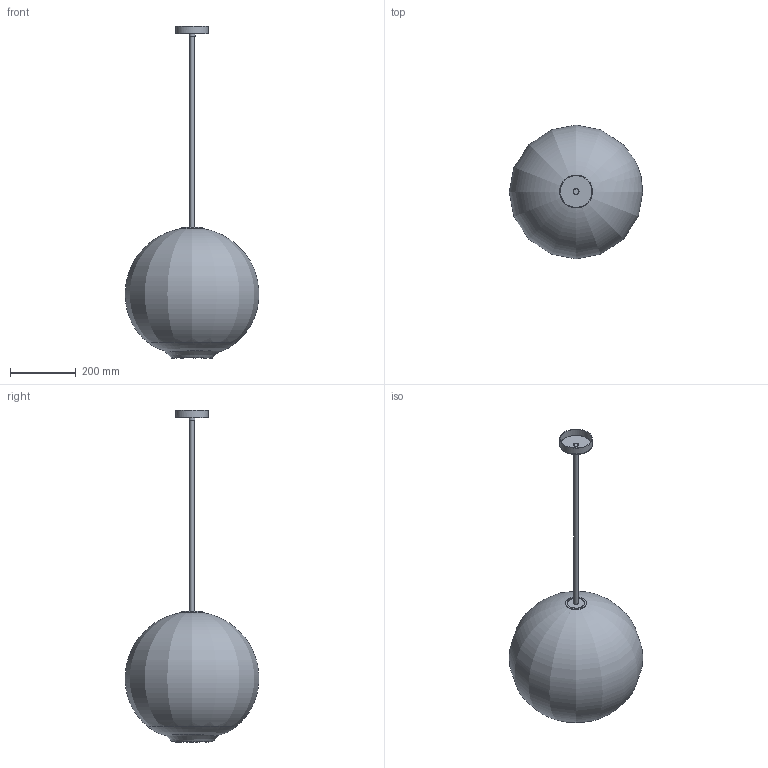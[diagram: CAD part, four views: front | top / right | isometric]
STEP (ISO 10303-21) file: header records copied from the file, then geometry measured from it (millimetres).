
FILE_DESCRIPTION(/* description */ (''),/* implementation_level */ '2;1');
FILE_NAME(/* name */ 'SkLO_Float_1.0_Pendant_16_LT254_3D_EU',/* time_stamp */ '2024-10-23T16:34:08+02:00',/* author */ (''),/* organization */ (''),/* preprocessor_version */ 'ST-DEVELOPER v16.5',/* originating_system */ 'Rhino 7.34',/* authorisation */ '');
FILE_SCHEMA (('CONFIG_CONTROL_DESIGN'));
Length unit declared in the file: millimetre
Products named in the file (1): Document
Bounding box: 407.3 x 407.8 x 1013.06 mm (x, y, z)
Volume: 4224595.4 mm3; surface area: 1126287.7 mm2
Topology: 11 solids, 12 shells, 346 faces, 831 edges, 528 vertices
Faces by surface type: plane 163, cylinder 106, bspline 77
Full cylindrical faces by diameter (mm): 7.5 x1, 8 x1, 10.2 x1, 11.236 x1, 13 x2, 16.2 x1, 16.572 x1, 18 x1, 42 x1, 42.416 x1, 45 x1, 47.21 x1, 51.33 x2, 52 x1, 52.4 x1, 53 x1, 53.931 x1, 54 x1, 62 x1, 64 x2, 97 x1, 100 x1
Entity records: 56340 total; most frequent: CARTESIAN_POINT 50727, ORIENTED_EDGE 1647, EDGE_CURVE 824, VERTEX_POINT 526, B_SPLINE_CURVE_WITH_KNOTS 523, EDGE_LOOP 387, ADVANCED_FACE 346, FACE_OUTER_BOUND 346
